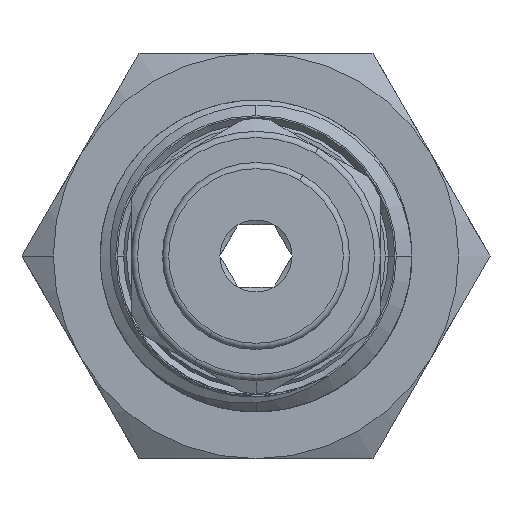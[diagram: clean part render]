
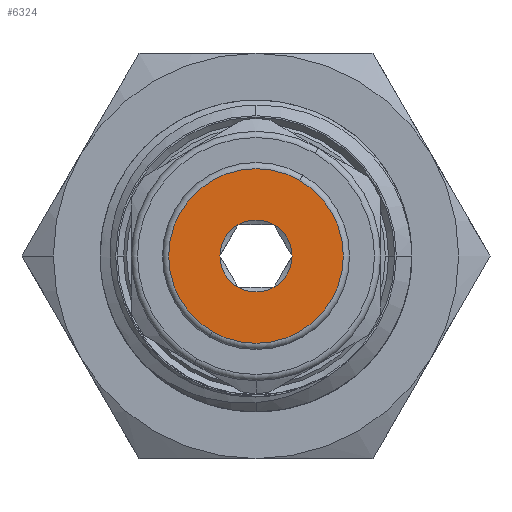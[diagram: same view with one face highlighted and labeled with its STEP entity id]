
A CAD part, front view. The second image highlights one B-rep face of the part: STEP entity #6324.
In plain terms, the highlighted planar face has unit normal (0, -1, 0).
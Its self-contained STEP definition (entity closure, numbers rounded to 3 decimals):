
#90 = CARTESIAN_POINT ( 'NONE',  ( 1.4, -27., 2.425 ) ) ;
#385 = VERTEX_POINT ( 'NONE', #10066 ) ;
#881 = AXIS2_PLACEMENT_3D ( 'NONE', #3819, #8330, #11955 ) ;
#950 = AXIS2_PLACEMENT_3D ( 'NONE', #13552, #2469, #3423 ) ;
#1109 = AXIS2_PLACEMENT_3D ( 'NONE', #11764, #8433, #12952 ) ;
#1216 = VERTEX_POINT ( 'NONE', #1979 ) ;
#1456 = DIRECTION ( 'NONE',  ( 0., 1., 0. ) ) ;
#1522 = ORIENTED_EDGE ( 'NONE', *, *, #2630, .T. ) ;
#1642 = DIRECTION ( 'NONE',  ( 0.5, 0., 0.866 ) ) ;
#1866 = DIRECTION ( 'NONE',  ( 0., -1., 0. ) ) ;
#1979 = CARTESIAN_POINT ( 'NONE',  ( -1.155, -27., 0. ) ) ;
#2008 = CARTESIAN_POINT ( 'NONE',  ( 0., -27., 0. ) ) ;
#2062 = AXIS2_PLACEMENT_3D ( 'NONE', #8586, #1866, #1642 ) ;
#2269 = ORIENTED_EDGE ( 'NONE', *, *, #7982, .T. ) ;
#2289 = DIRECTION ( 'NONE',  ( 1., 0., 0. ) ) ;
#2469 = DIRECTION ( 'NONE',  ( 0., -1., 0. ) ) ;
#2630 = EDGE_CURVE ( 'NONE', #9737, #11273, #6371, .T. ) ;
#3192 = AXIS2_PLACEMENT_3D ( 'NONE', #14022, #1456, #5960 ) ;
#3229 = ORIENTED_EDGE ( 'NONE', *, *, #4174, .T. ) ;
#3242 = CIRCLE ( 'NONE', #1109, 1.155 ) ;
#3343 = VERTEX_POINT ( 'NONE', #90 ) ;
#3423 = DIRECTION ( 'NONE',  ( 0.5, 0., 0.866 ) ) ;
#3661 = VERTEX_POINT ( 'NONE', #13956 ) ;
#3819 = CARTESIAN_POINT ( 'NONE',  ( 0., -27., 0. ) ) ;
#4156 = FACE_BOUND ( 'NONE', #5904, .T. ) ;
#4174 = EDGE_CURVE ( 'NONE', #3343, #6697, #8278, .T. ) ;
#4468 = EDGE_CURVE ( 'NONE', #6697, #3343, #11087, .T. ) ;
#4789 = CIRCLE ( 'NONE', #11884, 1.155 ) ;
#4983 = EDGE_CURVE ( 'NONE', #385, #3661, #4789, .T. ) ;
#5379 = VERTEX_POINT ( 'NONE', #14065 ) ;
#5512 = EDGE_CURVE ( 'NONE', #3661, #9737, #6103, .T. ) ;
#5516 = ORIENTED_EDGE ( 'NONE', *, *, #4468, .T. ) ;
#5627 = ORIENTED_EDGE ( 'NONE', *, *, #4983, .T. ) ;
#5904 = EDGE_LOOP ( 'NONE', ( #5627, #13338, #1522, #11967, #7280, #2269 ) ) ;
#5960 = DIRECTION ( 'NONE',  ( -1., 0., 0. ) ) ;
#6098 = DIRECTION ( 'NONE',  ( 0., -1., 0. ) ) ;
#6103 = CIRCLE ( 'NONE', #11773, 1.155 ) ;
#6324 = ADVANCED_FACE ( 'NONE', ( #4156, #9616 ), #14358, .T. ) ;
#6371 = CIRCLE ( 'NONE', #14624, 1.155 ) ;
#6697 = VERTEX_POINT ( 'NONE', #7310 ) ;
#7226 = DIRECTION ( 'NONE',  ( 0.5, 0., 0.866 ) ) ;
#7280 = ORIENTED_EDGE ( 'NONE', *, *, #10937, .T. ) ;
#7282 = CARTESIAN_POINT ( 'NONE',  ( 0., -27., 0. ) ) ;
#7299 = DIRECTION ( 'NONE',  ( 0., 1., 0. ) ) ;
#7310 = CARTESIAN_POINT ( 'NONE',  ( -1.4, -27., -2.425 ) ) ;
#7904 = DIRECTION ( 'NONE',  ( 0., 1., 0. ) ) ;
#7982 = EDGE_CURVE ( 'NONE', #5379, #385, #3242, .T. ) ;
#8094 = CARTESIAN_POINT ( 'NONE',  ( 0., -27., 0. ) ) ;
#8178 = EDGE_CURVE ( 'NONE', #11273, #1216, #13157, .T. ) ;
#8278 = CIRCLE ( 'NONE', #950, 2.8 ) ;
#8330 = DIRECTION ( 'NONE',  ( 0., 1., 0. ) ) ;
#8433 = DIRECTION ( 'NONE',  ( 0., 1., 0. ) ) ;
#8586 = CARTESIAN_POINT ( 'NONE',  ( 2.598, -27., -1.5 ) ) ;
#8968 = CARTESIAN_POINT ( 'NONE',  ( -0.577, -27., -1. ) ) ;
#9078 = CIRCLE ( 'NONE', #3192, 1.155 ) ;
#9616 = FACE_OUTER_BOUND ( 'NONE', #11424, .T. ) ;
#9737 = VERTEX_POINT ( 'NONE', #11140 ) ;
#10066 = CARTESIAN_POINT ( 'NONE',  ( 0.577, -27., 1. ) ) ;
#10515 = DIRECTION ( 'NONE',  ( -0.5, 0., -0.866 ) ) ;
#10937 = EDGE_CURVE ( 'NONE', #1216, #5379, #9078, .T. ) ;
#11087 = CIRCLE ( 'NONE', #14182, 2.8 ) ;
#11140 = CARTESIAN_POINT ( 'NONE',  ( 0.577, -27., -1. ) ) ;
#11273 = VERTEX_POINT ( 'NONE', #8968 ) ;
#11424 = EDGE_LOOP ( 'NONE', ( #5516, #3229 ) ) ;
#11485 = DIRECTION ( 'NONE',  ( 0., 1., 0. ) ) ;
#11764 = CARTESIAN_POINT ( 'NONE',  ( 0., -27., 0. ) ) ;
#11773 = AXIS2_PLACEMENT_3D ( 'NONE', #2008, #7904, #2289 ) ;
#11884 = AXIS2_PLACEMENT_3D ( 'NONE', #12848, #7299, #7226 ) ;
#11955 = DIRECTION ( 'NONE',  ( -0.5, 0., -0.866 ) ) ;
#11967 = ORIENTED_EDGE ( 'NONE', *, *, #8178, .T. ) ;
#12848 = CARTESIAN_POINT ( 'NONE',  ( 0., -27., 0. ) ) ;
#12952 = DIRECTION ( 'NONE',  ( -0.5, 0., 0.866 ) ) ;
#13157 = CIRCLE ( 'NONE', #881, 1.155 ) ;
#13338 = ORIENTED_EDGE ( 'NONE', *, *, #5512, .T. ) ;
#13552 = CARTESIAN_POINT ( 'NONE',  ( 0., -27., 0. ) ) ;
#13789 = DIRECTION ( 'NONE',  ( 0.5, 0., -0.866 ) ) ;
#13956 = CARTESIAN_POINT ( 'NONE',  ( 1.155, -27., 0. ) ) ;
#14022 = CARTESIAN_POINT ( 'NONE',  ( 0., -27., 0. ) ) ;
#14065 = CARTESIAN_POINT ( 'NONE',  ( -0.577, -27., 1. ) ) ;
#14182 = AXIS2_PLACEMENT_3D ( 'NONE', #7282, #6098, #10515 ) ;
#14358 = PLANE ( 'NONE',  #2062 ) ;
#14624 = AXIS2_PLACEMENT_3D ( 'NONE', #8094, #11485, #13789 ) ;
